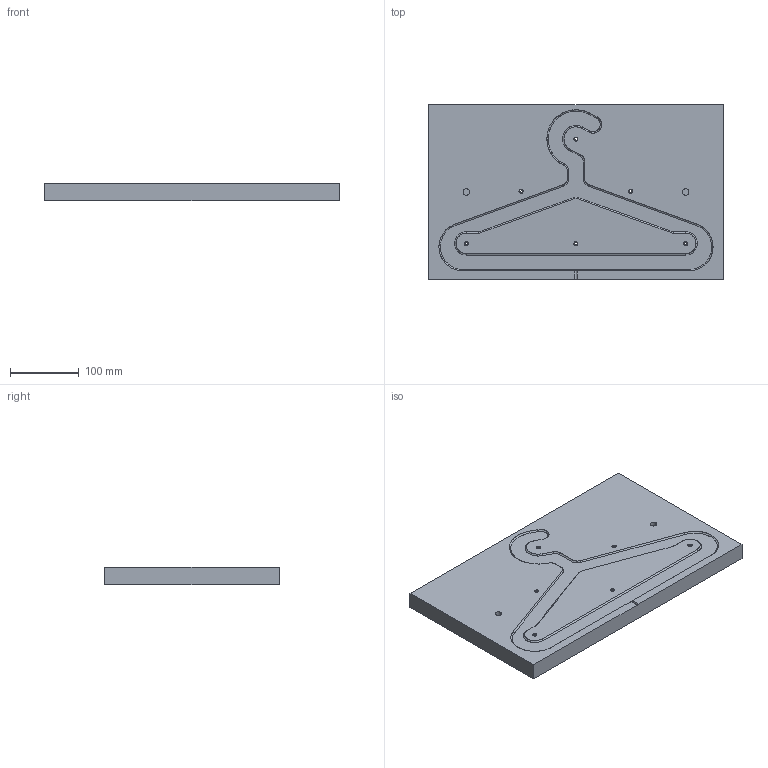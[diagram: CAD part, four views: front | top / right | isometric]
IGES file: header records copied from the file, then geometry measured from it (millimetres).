
Start section: SolidWorks IGES file using analytic representation for surfaces
Global section: file name: C:\Users\Andrés Garzón\Documents\Independiente\Plastico Guatavita\Diseños en plástico\Gancho de ropa\V3\Files\IGES\A without logo space.IGS; native system: SolidWorks 2018; preprocessor: SolidWorks 2018; author: Andrés Garzón; date: 231128.131014; units: millimetre
Bounding box: 430 x 255 x 25.4 mm (x, y, z)
Surface area: 261408.6 mm2 (no closed solid volume)
Topology: 0 solids, 0 shells, 309 faces, 5843 edges, 5843 vertices
Faces by surface type: revolution 264, bspline 45
